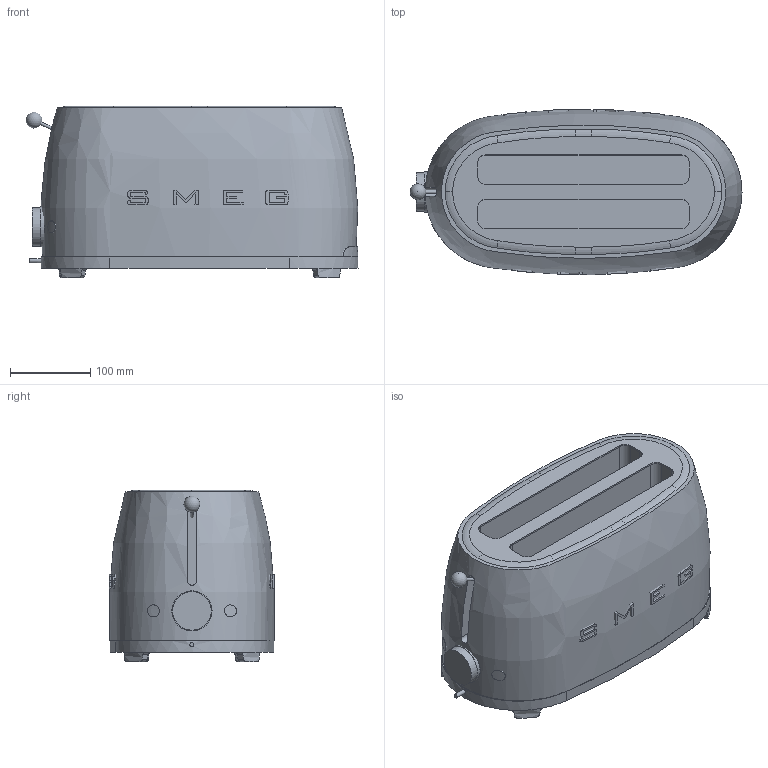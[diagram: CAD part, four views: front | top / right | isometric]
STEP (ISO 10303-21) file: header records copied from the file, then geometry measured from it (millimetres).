
FILE_DESCRIPTION(/* description */ (''),/* implementation_level */ '2;1');
FILE_NAME(/* name */ 'tostapane tsf02 4 fette.stp',/* time_stamp */ '2018-09-20T17:10:42+02:00',/* author */ (''),/* organization */ (''),/* preprocessor_version */ 'ST-DEVELOPER v16',/* originating_system */ 'SIEMENS PLM Software NX 11.0',/* authorisation */ '');
FILE_SCHEMA (('AUTOMOTIVE_DESIGN { 1 0 10303 214 3 1 1 1 }'));
Length unit declared in the file: millimetre
Products named in the file (1): gobb80D85F20cgvr
Bounding box: 413.74 x 206.21 x 214 mm (x, y, z)
Volume: 10935981.2 mm3; surface area: 745493.4 mm2
Topology: 18 solids, 18 shells, 254 faces, 640 edges, 425 vertices
Faces by surface type: plane 158, cylinder 55, extrusion 28, torus 8, bspline 4, sphere 1
Full cylindrical faces by diameter (mm): 5 x1, 15 x2, 48 x1, 50 x1
Entity records: 10785 total; most frequent: CARTESIAN_POINT 5031, ORIENTED_EDGE 1252, DIRECTION 952, EDGE_CURVE 626, VERTEX_POINT 421, AXIS2_PLACEMENT_3D 343, B_SPLINE_CURVE_WITH_KNOTS 296, EDGE_LOOP 270
